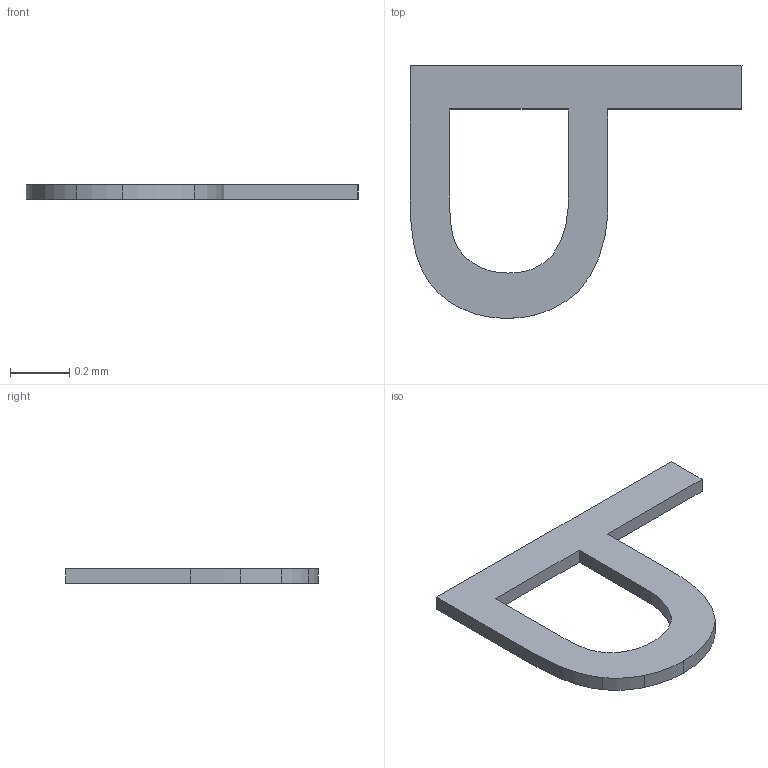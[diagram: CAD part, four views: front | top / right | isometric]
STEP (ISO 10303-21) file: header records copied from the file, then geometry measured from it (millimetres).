
FILE_DESCRIPTION(/* description */ ('STEP AP242 Edition 2','CAx-IF Rec.Pracs.---Representation and Presentation of Product Manufacturing Information (PMI)---4.0---2014-10-13','CAx-IF Rec.Pracs.---3D Tessellated Geometry---0.4---2014-09-14','2;1','CAx-IF Rec.Pracs.---User Defined Attributes---1.5---2016-08-15'),/* implementation_level */ '2;1');
FILE_NAME(/* name */ 'Drone Layout - Surface 297',/* time_stamp */ '2026-10-04T22:22:55Z',/* author */ (''),/* organization */ (''),/* preprocessor_version */ 'ST-DEVELOPER v20',/* originating_system */ 'ONSHAPE BY PTC INC, 1.221',/* authorisation */ ' ');
FILE_SCHEMA (('AP242_MANAGED_MODEL_BASED_3D_ENGINEERING_MIM_LF { 1 0 10303 442 3 1 4 }'));
Length unit declared in the file: metre
Products named in the file (1): Text_ITGMPU
Bounding box: 1.12 x 0.85 x 0.05 mm (x, y, z)
Volume: 0 mm3; surface area: 1 mm2
Topology: 1 solids, 1 shells, 21 faces, 57 edges, 38 vertices
Faces by surface type: cylinder 11, plane 10
Entity records: 703 total; most frequent: CARTESIAN_POINT 156, ORIENTED_EDGE 114, DIRECTION 110, EDGE_CURVE 57, AXIS2_PLACEMENT_3D 44, VERTEX_POINT 38, EDGE_LOOP 23, FACE_BOUND 23
